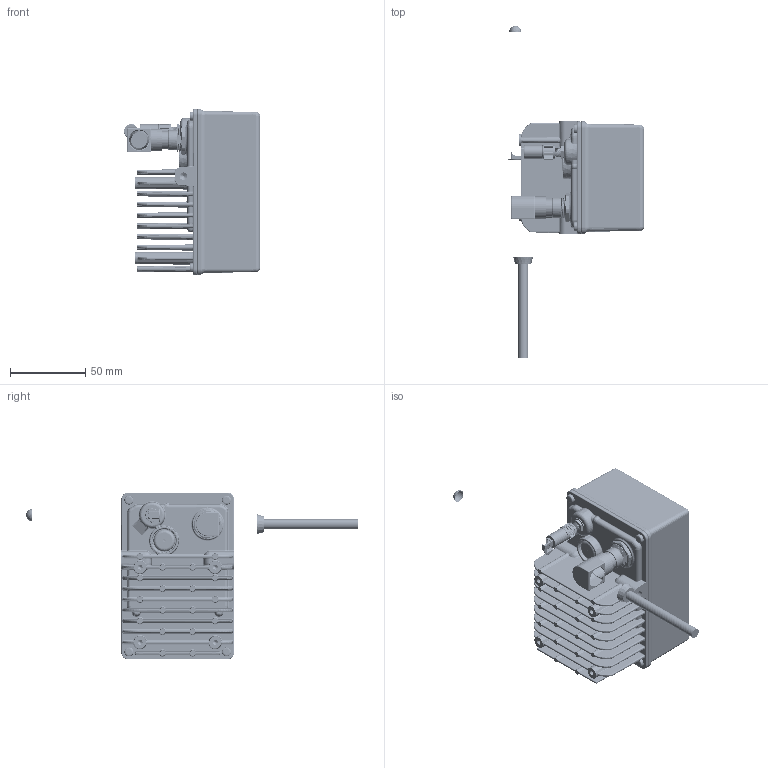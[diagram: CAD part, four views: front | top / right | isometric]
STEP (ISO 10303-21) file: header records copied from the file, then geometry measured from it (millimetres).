
FILE_DESCRIPTION(/* description */ (''),/* implementation_level */ '2;1');
FILE_NAME(/* name */ '10000443_ETR_D.stp',/* time_stamp */ '2023-03-09T09:46:15+01:00',/* author */ ('Menz'),/* organization */ (''),/* preprocessor_version */ 'ST-DEVELOPER v19.2',/* originating_system */ 'Autodesk Inventor 2023',/* authorisation */ '');
FILE_SCHEMA (('AUTOMOTIVE_DESIGN { 1 0 10303 214 3 1 1 }'));
Products named in the file (1): 10000443_simplified
Bounding box: 90.55 x 220.96 x 111 mm (x, y, z)
Volume: 433837.1 mm3; surface area: 124370 mm2
Topology: 12 solids, 12 shells, 2822 faces, 7214 edges, 4369 vertices
Faces by surface type: cylinder 979, bspline 682, plane 512, torus 276, cone 202, sphere 171
Full cylindrical faces by diameter (mm): 0.9 x1, 3 x28, 3.242 x4, 4.7 x1, 4.978 x2, 5.3 x2, 6 x4, 6.5 x2, 7 x1, 7.3 x1, 8.25 x1, 8.5 x1, 9 x2, 9.8 x1, 10.2 x1, 10.5 x1, 10.517 x5, 10.8 x1, 10.9 x1, 12 x1, 12.425 x1, 13 x1, 13.5 x1, 14.4 x1, 15 x1, 20 x1
Entity records: 154848 total; most frequent: CARTESIAN_POINT 87864, ORIENTED_EDGE 14206, DIRECTION 12459, EDGE_CURVE 7103, AXIS2_PLACEMENT_3D 5163, VERTEX_POINT 4369, EDGE_LOOP 2928, CIRCLE 2832
